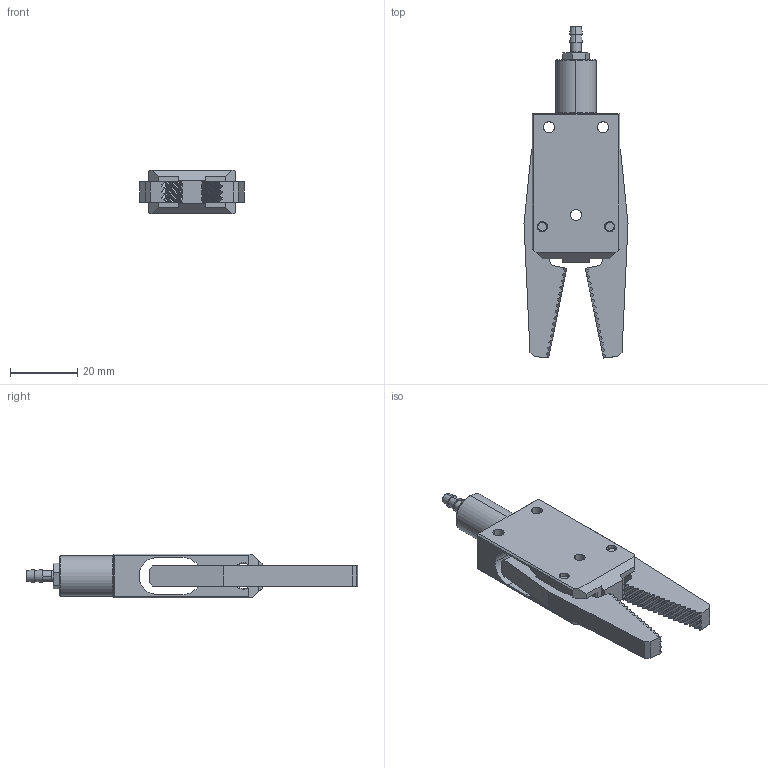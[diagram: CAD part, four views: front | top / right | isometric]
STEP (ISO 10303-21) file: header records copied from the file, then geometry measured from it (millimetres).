
FILE_DESCRIPTION (( 'STEP AP214' ), '1' );
FILE_NAME ('GRM12B.STEP', '2019-11-12T02:16:16', ( '微软用户' ), ( '微软中国' ), 'SwSTEP 2.0', 'SolidWorks 2016', '' );
FILE_SCHEMA (( 'AUTOMOTIVE_DESIGN' ));
Length unit declared in the file: millimetre
Products named in the file (1): GRM12B
Bounding box: 30.84 x 98.4 x 13 mm (x, y, z)
Volume: 14355.5 mm3; surface area: 10891 mm2
Topology: 6 solids, 6 shells, 318 faces, 893 edges, 588 vertices
Faces by surface type: plane 243, cylinder 49, cone 24, bspline 2
Entity records: 14036 total; most frequent: CARTESIAN_POINT 2126, ORIENTED_EDGE 1786, DIRECTION 1645, EDGE_CURVE 893, LINE 727, VECTOR 727, VERTEX_POINT 588, AXIS2_PLACEMENT_3D 459
